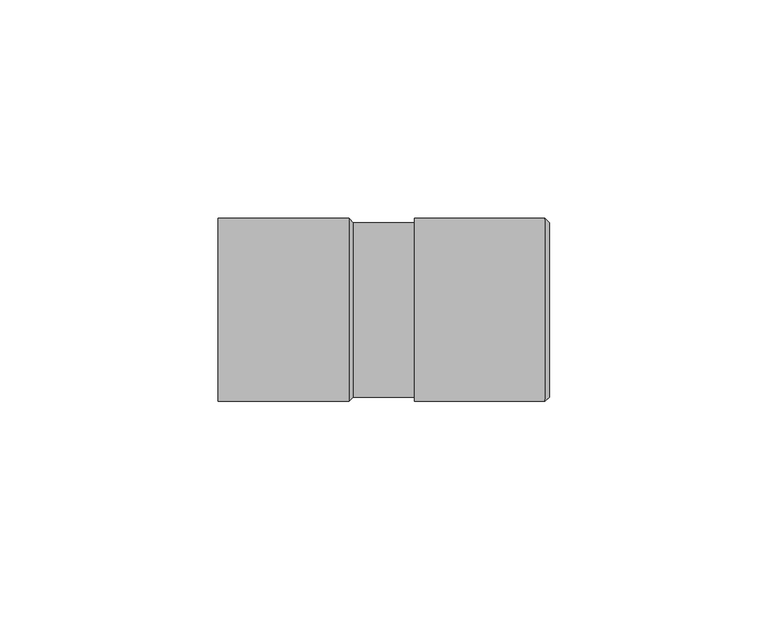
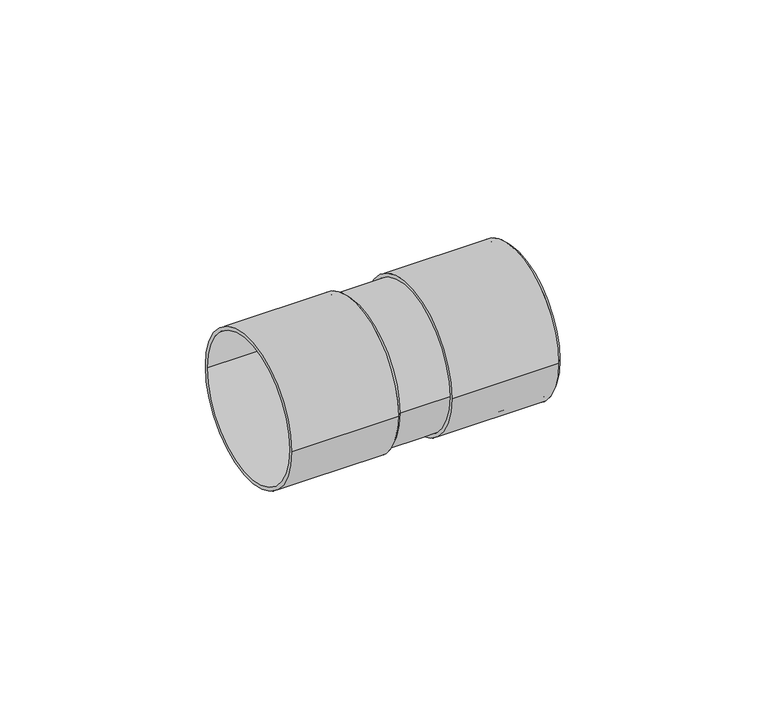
"""IFC4 building model written with IfcOpenShell, lengths in millimetres: pipe fitting geometry, Superdrain HTS-Connection piece to iron pipes : Superdrain HTS-Connection piece to iron pipes."""

from ifc_helpers import new_model, si_unit, point, frame, origin, origin_2d, place, context, project, spatial, polyline, circle_curve, trimmed, segment, composite_curve, outline, extrude, source, transform, mapped, element, save
from ifc_brep_helpers import plane_surface, revolved_surface, advanced_brep


def pipe_fitting_c86cb57a(model_context):
    return source(origin(), model_context, "Body", "SolidModel", [
        extrude(outline(composite_curve([segment(trimmed(circle_curve(origin_2d(), 21.0), [point((-21.0, 0.0))], [point((21.0, 0.0))], False, "CARTESIAN"), True, "CONTINUOUS"), segment(trimmed(circle_curve(origin_2d(), 21.0), [point((21.0, 0.0))], [point((-21.0, 0.0))], False, "CARTESIAN"), True, "CONTINUOUS")], self_intersect=False), holes=[composite_curve([segment(trimmed(circle_curve(origin_2d(), 20.0), [point((-20.0, 0.0))], [point((20.0, 0.0))], True, "CARTESIAN"), True, "CONTINUOUS"), segment(trimmed(circle_curve(origin_2d(), 20.0), [point((20.0, 0.0))], [point((-20.0, 0.0))], True, "CARTESIAN"), True, "CONTINUOUS")], self_intersect=False)]), frame((15.0, 0.0, 0.0), z_axis=(1.0, 0.0, 0.0), x_axis=(0.0, 1.0, 0.0)), (0.0, 0.0, 1.0), 30.0),
        advanced_brep(
        [(46.0, -20.0, 0.0), (46.0, 20.0, 0.0), (45.0, -21.0, 0.0), (45.0, 21.0, 0.0)],
        [
            (0, 1, circle_curve(frame((46.0, 0.0, 0.0), z_axis=(1.0, 0.0, 0.0), x_axis=(0.0, -1.0, 0.0)), 20.0)),
            (1, 0, circle_curve(frame((46.0, 0.0, 0.0), z_axis=(1.0, 0.0, 0.0), x_axis=(0.0, 1.0, 0.0)), 20.0)),
            (2, 3, circle_curve(frame((45.0, 0.0, 0.0), z_axis=(-1.0, 0.0, 0.0), x_axis=(0.0, 1.0, 0.0)), 21.0)),
            (3, 2, circle_curve(frame((45.0, 0.0, 0.0), z_axis=(-1.0, 0.0, 0.0), x_axis=(0.0, -1.0, 0.0)), 21.0)),
            (3, 1),
            (0, 2),
        ],
        [
            plane_surface(frame((46.0, 0.0, 0.0), z_axis=(1.0, 0.0, 0.0), x_axis=(0.0, 0.0, -1.0))),
            plane_surface(frame((45.0, 0.0, 0.0), z_axis=(-1.0, 0.0, 0.0), x_axis=(0.0, 0.0, -1.0))),
            revolved_surface(polyline([(46.0, -20.0, 0.0), (45.0, -21.0, 0.0)]), (66.0, 0.0, 0.0), (-1.0, 0.0, 0.0)),
            revolved_surface(polyline([(46.0, 20.0, 0.0), (45.0, 21.0, 0.0)]), (66.0, 0.0, 0.0), (-1.0, 0.0, 0.0)),
        ],
        [
            (0, [[1, 2]]),
            (1, [[3, 4]]),
            (2, [[-4, 5, -1, 6]]),
            (3, [[-3, -6, -2, -5]]),
        ],
    ),
        extrude(outline(composite_curve([segment(trimmed(circle_curve(origin_2d(), 21.0), [point((-21.0, 0.0))], [point((21.0, 0.0))], False, "CARTESIAN"), True, "CONTINUOUS"), segment(trimmed(circle_curve(origin_2d(), 21.0), [point((21.0, 0.0))], [point((-21.0, 0.0))], False, "CARTESIAN"), True, "CONTINUOUS")], self_intersect=False), holes=[composite_curve([segment(trimmed(circle_curve(origin_2d(), 20.0), [point((-20.0, 0.0))], [point((20.0, 0.0))], True, "CARTESIAN"), True, "CONTINUOUS"), segment(trimmed(circle_curve(origin_2d(), 20.0), [point((20.0, 0.0))], [point((-20.0, 0.0))], True, "CARTESIAN"), True, "CONTINUOUS")], self_intersect=False)]), frame((-30.0, 0.0, 0.0), z_axis=(1.0, 0.0, 0.0), x_axis=(0.0, 1.0, 0.0)), (0.0, 0.0, 1.0), 30.0),
        advanced_brep(
        [(1.0, -20.0, 0.0), (1.0, 20.0, 0.0), (0.0, -21.0, 0.0), (0.0, 21.0, 0.0)],
        [
            (0, 1, circle_curve(frame((1.0, 0.0, 0.0), z_axis=(1.0, 0.0, 0.0), x_axis=(0.0, -1.0, 0.0)), 20.0)),
            (1, 0, circle_curve(frame((1.0, 0.0, 0.0), z_axis=(1.0, 0.0, 0.0), x_axis=(0.0, 1.0, 0.0)), 20.0)),
            (2, 3, circle_curve(frame((0.0, 0.0, 0.0), z_axis=(-1.0, 0.0, 0.0), x_axis=(0.0, 1.0, 0.0)), 21.0)),
            (3, 2, circle_curve(frame((0.0, 0.0, 0.0), z_axis=(-1.0, 0.0, 0.0), x_axis=(0.0, -1.0, 0.0)), 21.0)),
            (3, 1),
            (0, 2),
        ],
        [
            plane_surface(frame((1.0, 0.0, 0.0), z_axis=(1.0, 0.0, 0.0), x_axis=(0.0, 0.0, -1.0))),
            plane_surface(frame((0.0, 0.0, 0.0), z_axis=(-1.0, 0.0, 0.0), x_axis=(0.0, 0.0, -1.0))),
            revolved_surface(polyline([(1.0, -20.0, 0.0), (0.0, -21.0, 0.0)]), (21.0, 0.0, 0.0), (-1.0, 0.0, 0.0)),
            revolved_surface(polyline([(1.0, 20.0, 0.0), (0.0, 21.0, 0.0)]), (21.0, 0.0, 0.0), (-1.0, 0.0, 0.0)),
        ],
        [
            (0, [[1, 2]]),
            (1, [[3, 4]]),
            (2, [[-4, 5, -1, 6]]),
            (3, [[-3, -6, -2, -5]]),
        ],
    ),
        extrude(outline(composite_curve([segment(trimmed(circle_curve(origin_2d(), 20.0), [point((-20.0, 0.0))], [point((20.0, 0.0))], False, "CARTESIAN"), True, "CONTINUOUS"), segment(trimmed(circle_curve(origin_2d(), 20.0), [point((20.0, 0.0))], [point((-20.0, 0.0))], False, "CARTESIAN"), True, "CONTINUOUS")], self_intersect=False)), frame((0.0, 0.0, 0.0), z_axis=(1.0, 0.0, 0.0), x_axis=(0.0, 1.0, 0.0)), (0.0, 0.0, 1.0), 45.0),
    ])


if __name__ == "__main__":
    model = new_model("IFC4")
    model_context = context("Model", 3, world=origin())
    ifc_project = project(units=[si_unit("LENGTHUNIT", "METRE", prefix="MILLI")], contexts=[model_context])
    site = spatial("IfcSite", under=ifc_project)
    building = spatial("IfcBuilding", under=site)
    placement = place(None, origin())
    pipe_fitting_shape = pipe_fitting_c86cb57a(model_context)
    element("IfcPipeFitting", 1, ObjectType="Superdrain HTS-Connection piece to iron pipes : Superdrain HTS-Connection piece to iron pipes", at=placement, inside=building, context=model_context, shape_type="MappedRepresentation", body=[
        mapped(pipe_fitting_shape, transform((0.0, 0.0, 0.0), x_axis=(1.0, 0.0, 0.0), y_axis=(0.0, 1.0, 0.0), z_axis=(0.0, 0.0, 1.0))),
    ])
    save(model, "model.ifc")
